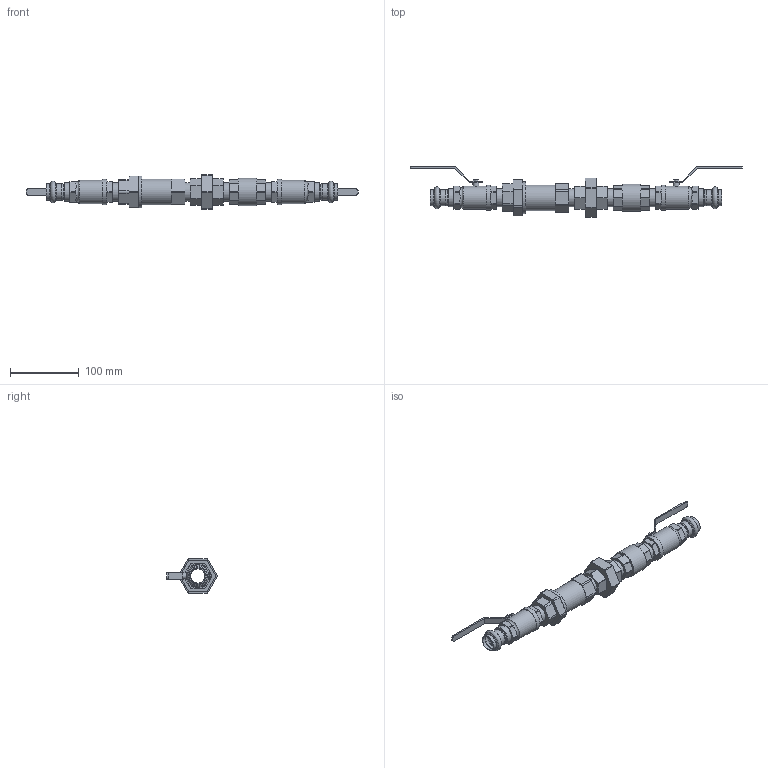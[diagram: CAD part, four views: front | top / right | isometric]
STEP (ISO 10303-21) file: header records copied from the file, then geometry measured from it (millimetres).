
FILE_DESCRIPTION(/* description */ ('VIC DOMESTIC WATER KIT FOR HYDRONIC BALANCING SERIES 7WX (CPF)','CAx-IF Rec.Pracs.---Representation and Presentation of Product Manufacturing Information (PMI)---4.0---2014-10-13'),/* implementation_level */ '2;1');
FILE_NAME(/* name */ 'C:\Users\Vjadhav\AppData\Roaming\Autodesk\ApplicationPlugins\Victaulic.Temp\A398\Victaulic_Domestic Water Kit for Hydronic Balancing_Series 7WX (CPF)_PRS_0.75 (20).stp',/* time_stamp */ '2021-08-10T11:09:52+06:00',/* author */ ('Vjadhav'),/* organization */ ('Victaulic'),/* preprocessor_version */ 'ST-DEVELOPER v17.2',/* originating_system */ 'Autodesk Inventor 2019',/* authorisation */ '');
FILE_SCHEMA (('AP242_MANAGED_MODEL_BASED_3D_ENGINEERING_MIM_LF { 1 0 10303 442 1 1 4 }'));
Length unit declared in the file: inch
Products named in the file (7): 7WX_PRS-0.75; Union_BR_386-0.75; Check_Valve_4133-0.75; Nipple_BR_386_Prs-0.75; 722L_Prs-0.75; P596-0.75x0.75; 76X-0.75
Assembly tree (11 placements, depth 2):
  7WX_PRS-0.75
    Union_BR_386-0.75
    Nipple_BR_386_Prs-0.75  x4
    722L_Prs-0.75  x2
    P596-0.75x0.75  x2
    Check_Valve_4133-0.75
    76X-0.75
Bounding box: 484.12 x 74.01 x 49.78 mm (x, y, z)
Volume: 262042.8 mm3; surface area: 120204.4 mm2
Topology: 11 solids, 11 shells, 364 faces, 996 edges, 690 vertices
Faces by surface type: plane 222, cylinder 112, torus 22, cone 8
Full cylindrical faces by diameter (mm): 4.572 x2, 8.763 x2, 20.599 x4, 20.879 x4, 20.93 x7, 22.225 x6, 23.851 x4, 26.67 x16, 34.052 x2, 36.83 x2, 37.316 x1, 39.751 x1, 46.206 x1
Entity records: 8795 total; most frequent: CARTESIAN_POINT 1531, DIRECTION 1500, ORIENTED_EDGE 1364, EDGE_CURVE 682, AXIS2_PLACEMENT_3D 558, VERTEX_POINT 467, LINE 384, VECTOR 384
